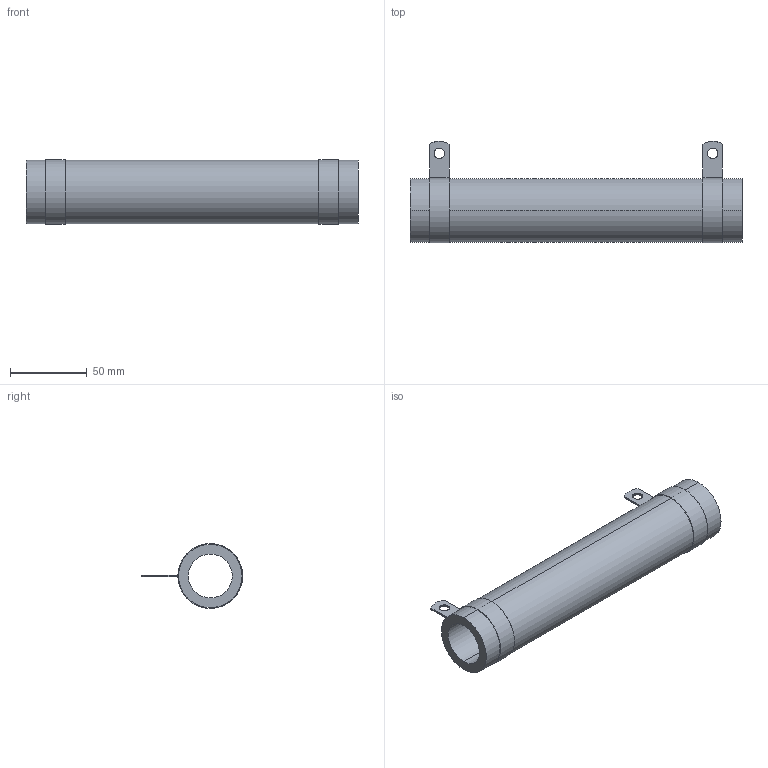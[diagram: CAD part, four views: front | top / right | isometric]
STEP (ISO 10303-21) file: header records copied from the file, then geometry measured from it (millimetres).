
FILE_DESCRIPTION (( 'STEP AP203' ), '1' );
FILE_NAME ('RBEF0400xxxxxKGB00.STEP', '2014-04-04T18:55:57', ( '' ), ( '' ), 'SwSTEP 2.0', 'SolidWorks 2012', '' );
FILE_SCHEMA (( 'CONFIG_CONTROL_DESIGN' ));
Length unit declared in the file: millimetre
Products named in the file (3): DAL15-182-XXX_DAL15-182-326-CLOSED; RBEF0400xxxxxKGB00; DAL013-07_DAL013-147
Assembly tree (3 placements, depth 2):
  RBEF0400xxxxxKGB00
    DAL013-07_DAL013-147
    DAL15-182-XXX_DAL15-182-326-CLOSED  x2
Bounding box: 215.9 x 66.03 x 42.21 mm (x, y, z)
Volume: 152504.2 mm3; surface area: 57866 mm2
Topology: 3 solids, 3 shells, 76 faces, 162 edges, 92 vertices
Faces by surface type: plane 46, cylinder 30
Entity records: 1432 total; most frequent: DIRECTION 215, CARTESIAN_POINT 184, ORIENTED_EDGE 174, EDGE_CURVE 87, AXIS2_PLACEMENT_3D 81, LINE 53, VECTOR 53, VERTEX_POINT 50
